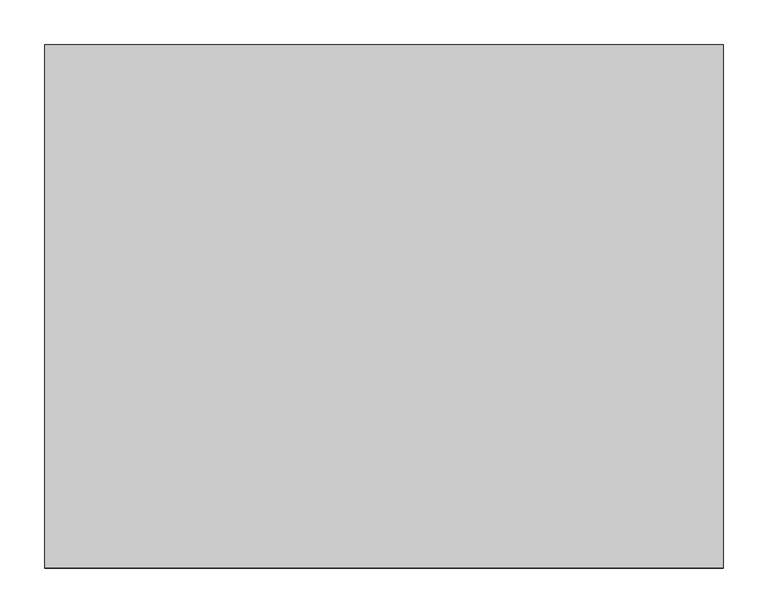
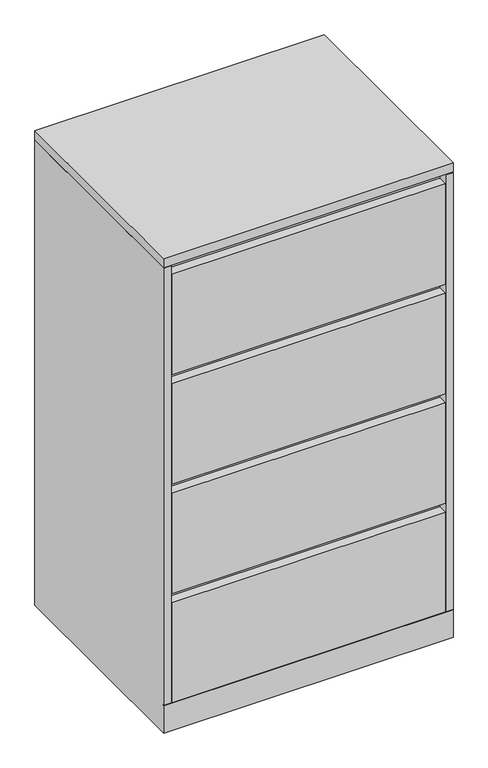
"""IFC4 building model written with IfcOpenShell, lengths in millimetres: furniture geometry, Steelcase - Universal Storage - Lateral File - 3 and 4 High - Flush Steel : 4 Drawers - 23 1/8D x 30W."""

from ifc_helpers import new_model, si_unit, frame, origin, place, context, project, spatial, polyline, outline, extrude, faceted_brep, source, transform, mapped, element, save


def furniture_de16cd3c(model_context):
    return source(origin(), model_context, "Body", "SolidModel", [
        extrude(outline(polyline([(762.0, 587.502), (762.0, 0.0), (0.0, 0.0), (0.0, 587.502), (762.0, 587.502)])), frame((0.0, 0.0, 1295.4), z_axis=(0.0, 0.0, 1.0), x_axis=(1.0, 0.0, 0.0)), (0.0, 0.0, 1.0), 25.4),
        faceted_brep([(762.0, 0.0, 0.0), (762.0, 587.502, 0.0), (762.0, 587.502, 1293.8759651), (762.0, 0.0, 1293.8759651), (762.0, 0.0, 77.7239985), (762.0, 1.524, 77.7239985), (762.0, 1.524, 76.2), (762.0, 0.0, 76.2), (0.0, 0.0, 0.0), (0.0, 0.0, 76.2), (0.0, 1.524, 76.2), (0.0, 1.524, 77.7239985), (0.0, 0.0, 77.7239985), (0.0, 0.0, 1293.8759651), (0.0, 587.502, 1293.8759651), (0.0, 587.502, 0.0), (19.304, 0.0, 1293.8759651), (19.304, 25.4000121, 1293.8759651), (742.696, 25.4000121, 1293.8759651), (742.696, 0.0, 1293.8759651), (19.304, 25.4000121, 101.600003), (742.696, 25.4000121, 101.600003), (19.304, 1.524, 101.600003), (742.696, 1.524, 101.600003), (742.696, 1.524, 77.7239985), (19.304, 1.524, 77.7239985), (19.304, 0.0, 77.7239985), (742.696, 0.0, 77.7239985)], [[[0, 1, 2, 3, 4, 5, 6, 7]], [[8, 9, 10, 11, 12, 13, 14, 15]], [[1, 0, 8, 15]], [[2, 1, 15, 14]], [[3, 2, 14, 13, 16, 17, 18, 19]], [[17, 20, 21, 18]], [[20, 22, 23, 21]], [[10, 6, 5, 24, 23, 22, 25, 11]], [[7, 6, 10, 9]], [[0, 7, 9, 8]], [[17, 16, 26, 25, 22, 20]], [[26, 16, 13, 12]], [[25, 26, 12, 11]], [[24, 27, 19, 18, 21, 23]], [[27, 24, 5, 4]], [[19, 27, 4, 3]]]),
        extrude(outline(polyline([(736.6000242, 562.1019992), (736.6000242, 25.4000121), (25.4000008, 25.4000121), (25.4000008, 562.1019992), (736.6000242, 562.1019992)])), frame((0.0, 0.0, 1293.8759651), z_axis=(0.0, 0.0, 1.0), x_axis=(1.0, 0.0, 0.0)), (0.0, 0.0, 1.0), 1.5240349),
        extrude(outline(polyline([(741.1719835, 0.0), (20.8280006, 0.0), (20.8280006, 25.4000121), (741.1719835, 25.4000121), (741.1719835, 0.0)])), frame((0.0, 0.0, 990.6), z_axis=(0.0, 0.0, 1.0), x_axis=(1.0, 0.0, 0.0)), (0.0, 0.0, 1.0), 279.4),
        extrude(outline(polyline([(741.1719835, 0.0), (20.8280006, 0.0), (20.8280006, 25.4000121), (741.1719835, 25.4000121), (741.1719835, 0.0)])), frame((0.0, 0.0, 685.8), z_axis=(0.0, 0.0, 1.0), x_axis=(1.0, 0.0, 0.0)), (0.0, 0.0, 1.0), 279.4),
        extrude(outline(polyline([(741.1719835, 0.0), (20.8280006, 0.0), (20.8280006, 25.4000121), (741.1719835, 25.4000121), (741.1719835, 0.0)])), frame((0.0, 0.0, 381.0), z_axis=(0.0, 0.0, 1.0), x_axis=(1.0, 0.0, 0.0)), (0.0, 0.0, 1.0), 279.4),
        extrude(outline(polyline([(741.1719835, 0.0), (20.8280006, 0.0), (20.8280006, 25.4000121), (741.1719835, 25.4000121), (741.1719835, 0.0)])), frame((0.0, 0.0, 77.7239985), z_axis=(0.0, 0.0, 1.0), x_axis=(1.0, 0.0, 0.0)), (0.0, 0.0, 1.0), 277.8759893),
    ])


if __name__ == "__main__":
    model = new_model("IFC4")
    model_context = context("Model", 3, world=origin())
    ifc_project = project(units=[si_unit("LENGTHUNIT", "METRE", prefix="MILLI")], contexts=[model_context])
    site = spatial("IfcSite", under=ifc_project)
    building = spatial("IfcBuilding", under=site)
    placement = place(None, origin())
    furniture_shape = furniture_de16cd3c(model_context)
    element("IfcFurniture", 1, ObjectType="Steelcase - Universal Storage - Lateral File - 3 and 4 High - Flush Steel : 4 Drawers - 23 1/8D x 30W", at=placement, inside=building, context=model_context, shape_type="MappedRepresentation", body=[
        mapped(furniture_shape, transform((0.0, 0.0, 0.0), x_axis=(1.0, 0.0, 0.0), y_axis=(0.0, 1.0, 0.0), z_axis=(0.0, 0.0, 1.0))),
    ])
    save(model, "model.ifc")
